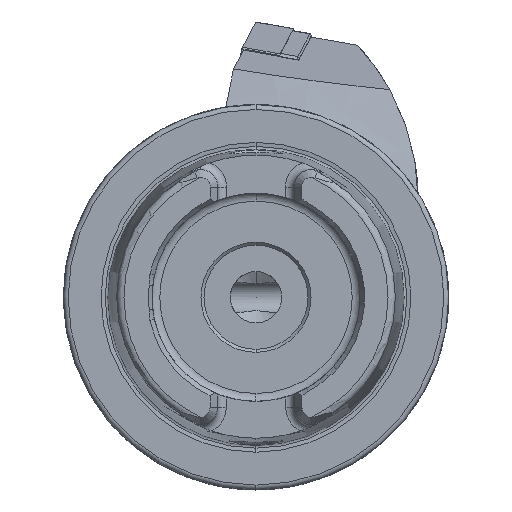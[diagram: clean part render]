
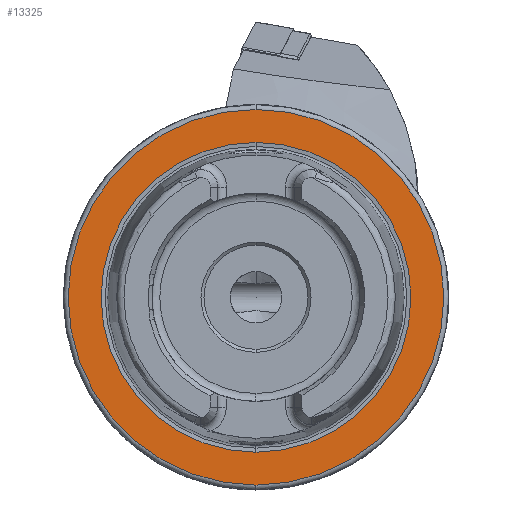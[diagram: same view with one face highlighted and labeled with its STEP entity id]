
A CAD part, left-side view. The second image highlights one B-rep face of the part: STEP entity #13325.
In plain terms, the highlighted planar face has unit normal (-1, 0, 0).
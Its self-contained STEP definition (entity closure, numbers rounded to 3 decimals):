
#191 = CIRCLE ( 'NONE', #10691, 25.324 ) ;
#328 = CARTESIAN_POINT ( 'NONE',  ( 0., 0., 0. ) ) ;
#835 = CARTESIAN_POINT ( 'NONE',  ( 0., 0., -25.324 ) ) ;
#905 = AXIS2_PLACEMENT_3D ( 'NONE', #14050, #6896, #15847 ) ;
#1895 = DIRECTION ( 'NONE',  ( 0., 0., -1. ) ) ;
#3769 = CIRCLE ( 'NONE', #17867, 30.7 ) ;
#4729 = AXIS2_PLACEMENT_3D ( 'NONE', #7561, #17598, #1895 ) ;
#4732 = VERTEX_POINT ( 'NONE', #835 ) ;
#4813 = PLANE ( 'NONE',  #4729 ) ;
#5487 = CARTESIAN_POINT ( 'NONE',  ( 0., 0., 0. ) ) ;
#6063 = VERTEX_POINT ( 'NONE', #12784 ) ;
#6259 = EDGE_CURVE ( 'NONE', #4732, #16187, #191, .T. ) ;
#6875 = DIRECTION ( 'NONE',  ( 0., 0., 1. ) ) ;
#6896 = DIRECTION ( 'NONE',  ( -1., 0., 0. ) ) ;
#6958 = CIRCLE ( 'NONE', #16113, 25.324 ) ;
#7309 = CARTESIAN_POINT ( 'NONE',  ( 0., 0., 25.324 ) ) ;
#7507 = DIRECTION ( 'NONE',  ( 0., 0., 1. ) ) ;
#7561 = CARTESIAN_POINT ( 'NONE',  ( 0., 30.7, 0. ) ) ;
#8917 = ORIENTED_EDGE ( 'NONE', *, *, #16138, .F. ) ;
#9160 = DIRECTION ( 'NONE',  ( -1., 0., 0. ) ) ;
#9198 = ORIENTED_EDGE ( 'NONE', *, *, #10645, .T. ) ;
#9439 = ORIENTED_EDGE ( 'NONE', *, *, #6259, .F. ) ;
#10363 = ORIENTED_EDGE ( 'NONE', *, *, #16777, .T. ) ;
#10602 = EDGE_LOOP ( 'NONE', ( #9198, #10363 ) ) ;
#10645 = EDGE_CURVE ( 'NONE', #6063, #16996, #3769, .T. ) ;
#10691 = AXIS2_PLACEMENT_3D ( 'NONE', #328, #11852, #7507 ) ;
#10752 = FACE_OUTER_BOUND ( 'NONE', #10602, .T. ) ;
#11852 = DIRECTION ( 'NONE',  ( -1., 0., 0. ) ) ;
#12331 = FACE_BOUND ( 'NONE', #13376, .T. ) ;
#12427 = CARTESIAN_POINT ( 'NONE',  ( 0., 0., -30.7 ) ) ;
#12784 = CARTESIAN_POINT ( 'NONE',  ( 0., 0., 30.7 ) ) ;
#13325 = ADVANCED_FACE ( 'NONE', ( #12331, #10752 ), #4813, .F. ) ;
#13376 = EDGE_LOOP ( 'NONE', ( #8917, #9439 ) ) ;
#14050 = CARTESIAN_POINT ( 'NONE',  ( 0., 0., 0. ) ) ;
#15460 = DIRECTION ( 'NONE',  ( -1., 0., 0. ) ) ;
#15847 = DIRECTION ( 'NONE',  ( 0., 0., 1. ) ) ;
#16113 = AXIS2_PLACEMENT_3D ( 'NONE', #5487, #15460, #6875 ) ;
#16138 = EDGE_CURVE ( 'NONE', #16187, #4732, #6958, .T. ) ;
#16187 = VERTEX_POINT ( 'NONE', #7309 ) ;
#16777 = EDGE_CURVE ( 'NONE', #16996, #6063, #17260, .T. ) ;
#16996 = VERTEX_POINT ( 'NONE', #12427 ) ;
#17260 = CIRCLE ( 'NONE', #905, 30.7 ) ;
#17598 = DIRECTION ( 'NONE',  ( 1., 0., 0. ) ) ;
#17628 = CARTESIAN_POINT ( 'NONE',  ( 0., 0., 0. ) ) ;
#17832 = DIRECTION ( 'NONE',  ( 0., 0., 1. ) ) ;
#17867 = AXIS2_PLACEMENT_3D ( 'NONE', #17628, #9160, #17832 ) ;
